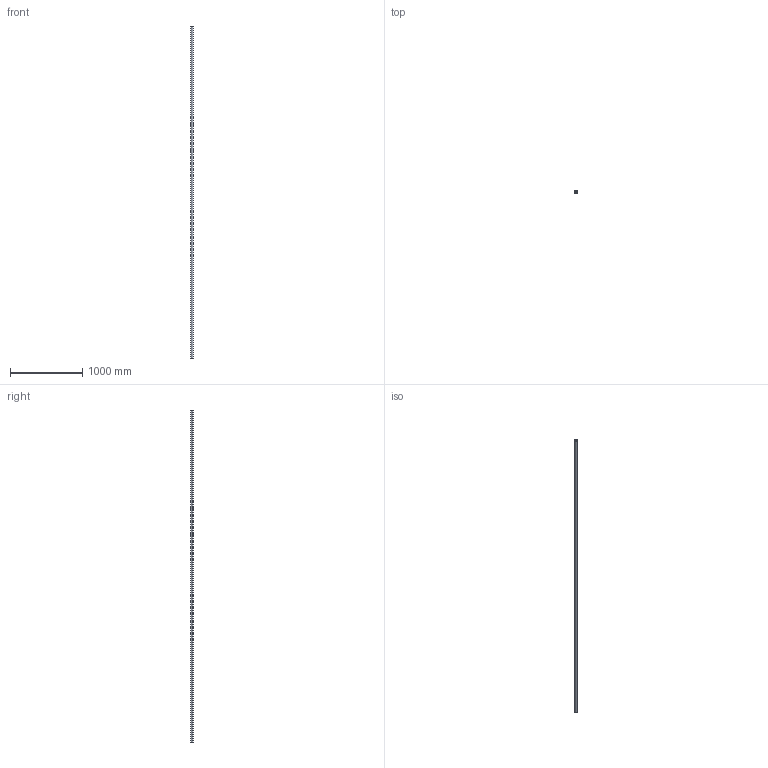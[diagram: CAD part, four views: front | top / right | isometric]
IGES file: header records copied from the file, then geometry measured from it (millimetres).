
Start section: SolidWorks IGES file using analytic representation for surfaces
Global section: file name: C:\Users\IanO\Desktop\L1771_v2\L1771.40_v2\L1771.40_v2_20230705_IGES\L1771.40-4600.igs; native system: SolidWorks 2019; preprocessor: SolidWorks 2019; author: IanO; date: 230705.162621; units: millimetre
Bounding box: 40 x 40 x 4600 mm (x, y, z)
Surface area: 983972 mm2 (no closed solid volume)
Topology: 0 solids, 0 shells, 6 faces, 272 edges, 272 vertices
Faces by surface type: revolution 4, bspline 2
